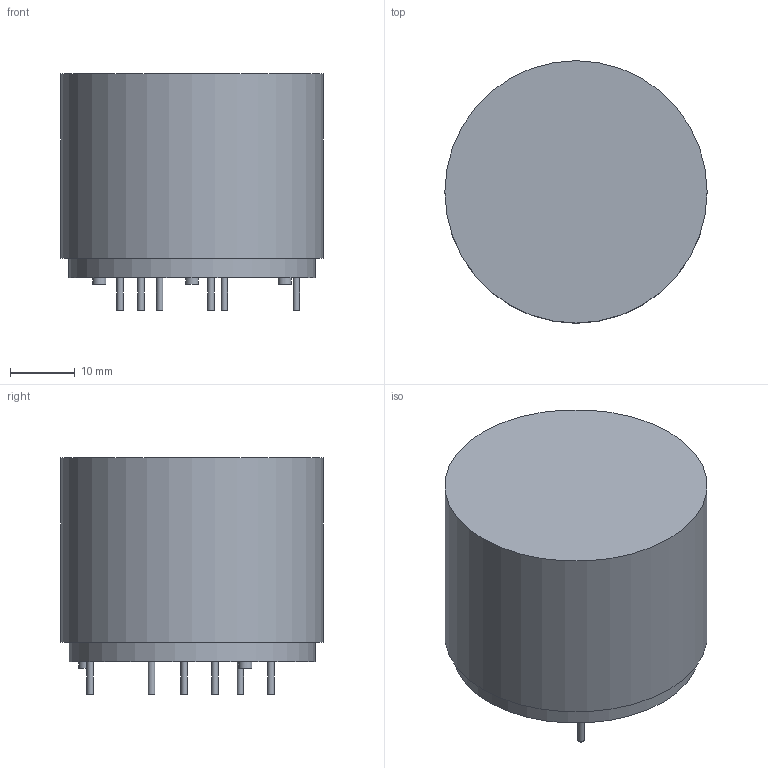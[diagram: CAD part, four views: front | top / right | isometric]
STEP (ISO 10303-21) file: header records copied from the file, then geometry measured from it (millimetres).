
FILE_DESCRIPTION(/* description */ (''),/* implementation_level */ '2;1');
FILE_NAME(/* name */ 'F:\2016年工作\2016年产品图纸\VAC\X2\4EA754C1\X0\3D模型\产品3D模型\6123-X306\6123-X306 6123-X306 3D model.stp',/* time_stamp */ '2016-06-21T09:04:10+08:00',/* author */ ('CN000560'),/* organization */ (''),/* preprocessor_version */ 'ST-DEVELOPER v16.1',/* originating_system */ 'Autodesk Inventor 2016',/* authorisation */ '');
FILE_SCHEMA (('AUTOMOTIVE_DESIGN { 1 0 10303 214 3 1 1 }'));
Length unit declared in the file: millimetre
Products named in the file (1): 6123-X306 6123-X306 3D model
Bounding box: 40.5 x 40.5 x 36.5 mm (x, y, z)
Volume: 40143.2 mm3; surface area: 6678 mm2
Topology: 1 solids, 1 shells, 24 faces, 36 edges, 24 vertices
Faces by surface type: cylinder 12, plane 12
Full cylindrical faces by diameter (mm): 1 x6, 2 x3, 40.5 x1
Entity records: 518 total; most frequent: DIRECTION 100, CARTESIAN_POINT 75, ORIENTED_EDGE 52, AXIS2_PLACEMENT_3D 49, EDGE_LOOP 44, EDGE_CURVE 26, FACE_OUTER_BOUND 24, CIRCLE 24
